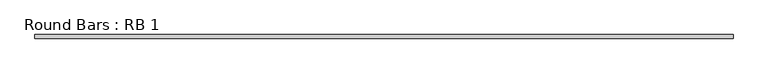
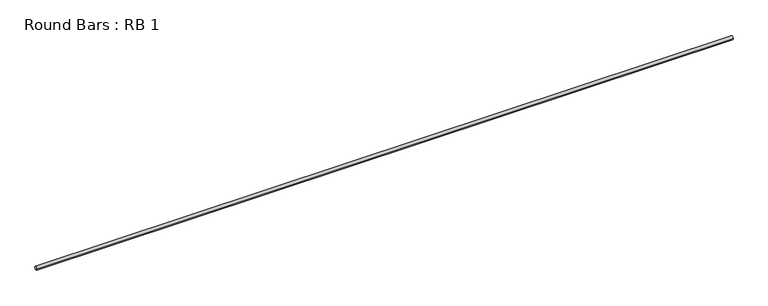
"""IFC4 building model written with IfcOpenShell, lengths in millimetres: beam geometry, Round Bars : RB 1."""

import ifcopenshell
import ifcopenshell.guid

model = None  # the IFC model being written
_history = None  # IfcOwnerHistory: only IFC2X3 demands one
_inside = {}  # id of a spatial element -> (the spatial element, [elements in it])
_under = {}  # id of a project, library or spatial element -> (it, [spatial elements below it])
_declared = {}  # id of a project -> (the project, [libraries it declares])
_typed = {}  # id of a type object -> (the type object, [elements of that type])
_made_of = {}  # id of a material, layer set ... -> (it, [elements and type objects made of it])


def new_model(schema):
    """Start an empty IFC model of exactly this schema.

    Asked for "IFC4X3", IfcOpenShell would pick the latest addendum, in which some entities
    have other attributes; the version numbers below select the first issue.
    IFC2X3 requires an IfcOwnerHistory on every rooted entity: one is made here for all.
    """
    global model, _history
    if schema == "IFC4X3":
        model = ifcopenshell.file(schema_version=(4, 3, 0, 0))
    else:
        model = ifcopenshell.file(schema=schema)
    _inside.clear()
    _under.clear()
    _declared.clear()
    _typed.clear()
    _made_of.clear()
    _history = None
    if model.schema == "IFC2X3":
        org = make("IfcOrganization", Name="unknown")
        user = make(
            "IfcPersonAndOrganization",
            ThePerson=make("IfcPerson", FamilyName="unknown"),
            TheOrganization=org,
        )
        app = make(
            "IfcApplication",
            ApplicationDeveloper=org,
            Version="unknown",
            ApplicationFullName="unknown",
            ApplicationIdentifier="unknown",
        )
        _history = make(
            "IfcOwnerHistory",
            OwningUser=user,
            OwningApplication=app,
            ChangeAction="ADDED",
            CreationDate=0,
        )
    return model


def make(cls, **values):
    """One entity of the class cls with the attributes given. An attribute that is None is left unset."""
    return model.create_entity(
        cls, **{name: value for name, value in values.items() if value is not None}
    )


def rooted(cls, **values):
    """An entity with a GlobalId (a new one), such as an element, a storey or a relation."""
    return make(cls, GlobalId=ifcopenshell.guid.new(), OwnerHistory=_history, **values)


def si_unit(unit_type, name, prefix=None):
    """IfcSIUnit, for example si_unit("LENGTHUNIT", "METRE", prefix="MILLI")."""
    return make("IfcSIUnit", UnitType=unit_type, Prefix=prefix, Name=name)


def assignment(units):
    """IfcUnitAssignment: the units of a project."""
    return None if units is None else make("IfcUnitAssignment", Units=units)


def point(xyz):
    """IfcCartesianPoint."""
    return None if xyz is None else make("IfcCartesianPoint", Coordinates=xyz)


def direction(xyz):
    """IfcDirection."""
    return None if xyz is None else make("IfcDirection", DirectionRatios=xyz)


def frame(location, z_axis=None, x_axis=None):
    """IfcAxis2Placement3D, a coordinate frame: its origin and axes. An axis left out is left unset."""
    return make(
        "IfcAxis2Placement3D",
        Location=point(location),
        Axis=direction(z_axis),
        RefDirection=direction(x_axis),
    )


def frame_2d(location, x_axis=None):
    """IfcAxis2Placement2D, a coordinate frame in the plane: its origin and x axis."""
    return make(
        "IfcAxis2Placement2D", Location=point(location), RefDirection=direction(x_axis)
    )


def origin():
    """The frame at (0, 0, 0) with its axes left unset."""
    return frame((0.0, 0.0, 0.0))


def origin_2d():
    """The frame at (0, 0) in the plane with its x axis left unset."""
    return frame_2d((0.0, 0.0))


def place(relative_to, where):
    """IfcLocalPlacement: puts the frame where relative to a parent placement (None: the world)."""
    return make(
        "IfcLocalPlacement", PlacementRelTo=relative_to, RelativePlacement=where
    )


def context(
    kind, dimensions, precision=None, world=None, true_north=None, identifier=None
):
    """IfcGeometricRepresentationContext, for example the 3D "Model" context."""
    return make(
        "IfcGeometricRepresentationContext",
        ContextIdentifier=identifier,
        ContextType=kind,
        CoordinateSpaceDimension=dimensions,
        Precision=precision,
        WorldCoordinateSystem=world,
        TrueNorth=true_north,
    )


def project(units=None, contexts=None):
    """IfcProject with its units and contexts."""
    return rooted(
        "IfcProject",
        Name="project",
        RepresentationContexts=contexts,
        UnitsInContext=assignment(units),
    )


def spatial(cls, under=None, at=None, **own):
    """A site, building, storey or space (cls), placed at a placement, below another one or the project."""
    s = rooted(cls, ObjectPlacement=at, **own)
    if under is not None:
        _under.setdefault(under.id(), (under, []))[1].append(s)
    return s


def circle_curve(where, radius):
    """IfcCircle in the frame where."""
    return make("IfcCircle", Position=where, Radius=radius)


def trimmed(basis, trim1, trim2, sense, master):
    """IfcTrimmedCurve: the piece of a basis curve between two trims."""
    return make(
        "IfcTrimmedCurve",
        BasisCurve=basis,
        Trim1=trim1,
        Trim2=trim2,
        SenseAgreement=sense,
        MasterRepresentation=master,
    )


def segment(curve, same_sense, transition):
    """IfcCompositeCurveSegment."""
    return make(
        "IfcCompositeCurveSegment",
        Transition=transition,
        SameSense=same_sense,
        ParentCurve=curve,
    )


def composite_curve(segments, self_intersect=None):
    """IfcCompositeCurve: segments joined end to end."""
    return make("IfcCompositeCurve", Segments=segments, SelfIntersect=self_intersect)


def outline(outer, holes=None, kind="AREA"):
    """IfcArbitraryClosedProfileDef: a profile drawn as a closed curve; with holes, ...WithVoids."""
    if holes is None:
        return make("IfcArbitraryClosedProfileDef", ProfileType=kind, OuterCurve=outer)
    return make(
        "IfcArbitraryProfileDefWithVoids",
        ProfileType=kind,
        OuterCurve=outer,
        InnerCurves=holes,
    )


def extrude(swept, where, along, depth):
    """IfcExtrudedAreaSolid: the profile swept, set in the frame where, extruded along a direction by depth."""
    return make(
        "IfcExtrudedAreaSolid",
        SweptArea=swept,
        Position=where,
        ExtrudedDirection=direction(along),
        Depth=depth,
    )


def shape(context_of_items, identifier, shape_type, items):
    """IfcShapeRepresentation: the items that make up one representation, for example the "Body"."""
    return make(
        "IfcShapeRepresentation",
        ContextOfItems=context_of_items,
        RepresentationIdentifier=identifier,
        RepresentationType=shape_type,
        Items=items,
    )


def source(mapping_origin, context_of_items, identifier, shape_type, items):
    """IfcRepresentationMap: a shape defined once, which mapped items show again and again."""
    return make(
        "IfcRepresentationMap",
        MappingOrigin=mapping_origin,
        MappedRepresentation=shape(context_of_items, identifier, shape_type, items),
    )


def transform(
    local_origin,
    x_axis=None,
    y_axis=None,
    z_axis=None,
    scale=None,
    scale2=None,
    scale3=None,
    uniform=True,
):
    """IfcCartesianTransformationOperator3D, or its non-uniform kind. x_axis, y_axis, z_axis: its Axis1, 2, 3."""
    if uniform:
        return make(
            "IfcCartesianTransformationOperator3D",
            Axis1=direction(x_axis),
            Axis2=direction(y_axis),
            LocalOrigin=point(local_origin),
            Scale=scale,
            Axis3=direction(z_axis),
        )
    return make(
        "IfcCartesianTransformationOperator3DnonUniform",
        Axis1=direction(x_axis),
        Axis2=direction(y_axis),
        LocalOrigin=point(local_origin),
        Scale=scale,
        Axis3=direction(z_axis),
        Scale2=scale2,
        Scale3=scale3,
    )


def mapped(mapping_source, mapping_target):
    """IfcMappedItem: shows the shape of a source again, moved by a transform."""
    return make(
        "IfcMappedItem", MappingSource=mapping_source, MappingTarget=mapping_target
    )


def made_of(thing, what):
    """Note that an element or type object is made of a material, layer set ...; save() writes the relation."""
    if what is not None:
        _made_of.setdefault(what.id(), (what, []))[1].append(thing)
    return thing


def element(
    cls,
    number,
    at=None,
    inside=None,
    cuts=None,
    type_object=None,
    material=None,
    context=None,
    identifier="Body",
    shape_type=None,
    held_by="IfcProductDefinitionShape",
    body=None,
    shapes=None,
    **own,
):
    """One element of the class cls, such as IfcWall. Its Tag is "e" and its number.

    at: its placement. inside: the storey or other place that contains it. cuts: it is an
    opening in that element (IfcRelVoidsElement). A single representation is given by context,
    identifier, shape_type and body (its items); several are given by shapes. held_by: the class
    of the entity that holds the representations. save() writes the other relations.
    """
    e = rooted(cls, Tag="e%d" % number, ObjectPlacement=at, **own)
    if body is not None:
        shapes = [shape(context, identifier, shape_type, body)]
    if shapes is not None:
        e.Representation = make(held_by, Representations=shapes)
    if inside is not None:
        _inside.setdefault(inside.id(), (inside, []))[1].append(e)
    if cuts is not None:
        rooted(
            "IfcRelVoidsElement", RelatingBuildingElement=cuts, RelatedOpeningElement=e
        )
    if type_object is not None:
        _typed.setdefault(type_object.id(), (type_object, []))[1].append(e)
    return made_of(e, material)


def aggregate(whole, parts):
    """IfcRelAggregates: a whole, such as a stair, and the parts it consists of."""
    return rooted("IfcRelAggregates", RelatingObject=whole, RelatedObjects=parts)


def save(model, path):
    """Write the relations noted so far, then the file.

    IfcRelAggregates (storeys below a building ...), IfcRelContainedInSpatialStructure (elements
    in a storey), IfcRelDefinesByType, IfcRelAssociatesMaterial and IfcRelDeclares: one each for
    every whole, place, type object, material and project.
    """
    for whole, parts in _under.values():
        aggregate(whole, parts)
    for where, things in _inside.values():
        rooted(
            "IfcRelContainedInSpatialStructure",
            RelatedElements=things,
            RelatingStructure=where,
        )
    for kind, things in _typed.values():
        rooted("IfcRelDefinesByType", RelatedObjects=things, RelatingType=kind)
    for what, things in _made_of.values():
        rooted("IfcRelAssociatesMaterial", RelatedObjects=things, RelatingMaterial=what)
    for by, libraries in _declared.values():
        rooted("IfcRelDeclares", RelatingContext=by, RelatedDefinitions=libraries)
    model.write(path)


def round_bars_rb_1_6b27a221(model_context):
    return source(origin(), model_context, "Body", "SweptSolid", [
        extrude(outline(composite_curve([segment(trimmed(circle_curve(origin_2d(), 12.7), [point((-12.7, 0.0))], [point((12.7, 0.0))], False, "CARTESIAN"), True, "CONTINUOUS"), segment(trimmed(circle_curve(origin_2d(), 12.7), [point((12.7, 0.0))], [point((-12.7, 0.0))], False, "CARTESIAN"), True, "CONTINUOUS")], self_intersect=False)), frame((-2464.2534389, 0.0, 0.0), z_axis=(1.0, 0.0, 0.0), x_axis=(0.0, 1.0, 0.0)), (0.0, 0.0, 1.0), 4928.5068778),
    ])


if __name__ == "__main__":
    model = new_model("IFC4")
    model_context = context("Model", 3, world=origin())
    ifc_project = project(units=[si_unit("LENGTHUNIT", "METRE", prefix="MILLI")], contexts=[model_context])
    site = spatial("IfcSite", under=ifc_project)
    building = spatial("IfcBuilding", under=site)
    placement = place(None, origin())
    round_bars_rb_1_shape = round_bars_rb_1_6b27a221(model_context)
    element("IfcBeam", 1, ObjectType="Round Bars : RB 1", at=placement, inside=building, context=model_context, shape_type="MappedRepresentation", body=[
        mapped(round_bars_rb_1_shape, transform((0.0, 0.0, 0.0), x_axis=(1.0, 0.0, 0.0), y_axis=(0.0, 1.0, 0.0), z_axis=(0.0, 0.0, 1.0))),
    ])
    save(model, "model.ifc")
